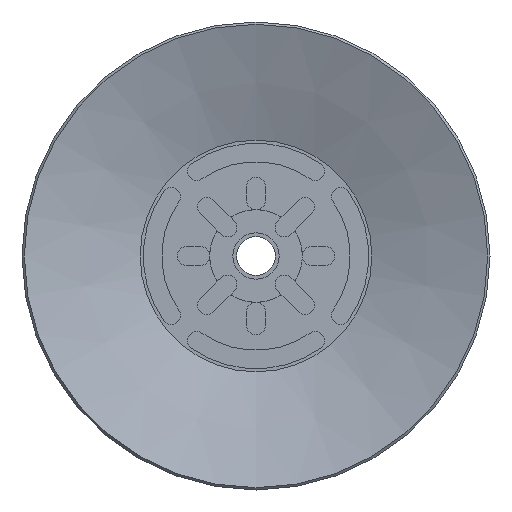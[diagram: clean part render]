
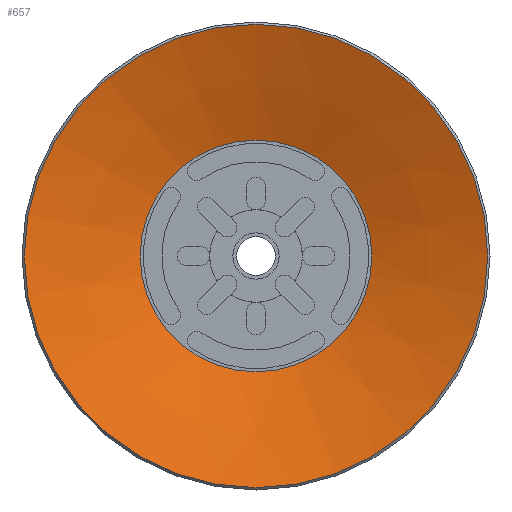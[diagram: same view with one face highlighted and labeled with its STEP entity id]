
A CAD part, front view. The second image highlights one B-rep face of the part: STEP entity #657.
In plain terms, the highlighted conical face has half-angle 70.201 degrees and reference radius 7.5 mm.
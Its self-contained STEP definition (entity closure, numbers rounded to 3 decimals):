
#657=ADVANCED_FACE('',(#1139,#1140),#1141,.F.);
#1139=FACE_BOUND('',#1844,.T.);
#1140=FACE_OUTER_BOUND('',#1845,.T.);
#1141=CONICAL_SURFACE('',#1846,7.5,1.225);
#1844=EDGE_LOOP('',(#3289));
#1845=EDGE_LOOP('',(#3290));
#1846=AXIS2_PLACEMENT_3D('',#3291,#3292,#3293);
#3289=ORIENTED_EDGE('',*,*,#3721,.F.);
#3290=ORIENTED_EDGE('',*,*,#3655,.T.);
#3291=CARTESIAN_POINT('',(0.0,0.0,2.7));
#3292=DIRECTION('',(0.0,0.,-1.0));
#3293=DIRECTION('',(0.0,1.0,0.));
#3655=EDGE_CURVE('',#4315,#4315,#4316,.T.);
#3721=EDGE_CURVE('',#4429,#4429,#4430,.T.);
#4315=VERTEX_POINT('',#5781);
#4316=CIRCLE('',#5782,15.0);
#4429=VERTEX_POINT('',#5920);
#4430=CIRCLE('',#5921,7.5);
#5781=CARTESIAN_POINT('',(0.0,15.0,0.));
#5782=AXIS2_PLACEMENT_3D('',#6531,#6532,#6533);
#5920=CARTESIAN_POINT('',(0.0,7.5,2.7));
#5921=AXIS2_PLACEMENT_3D('',#6679,#6680,#6681);
#6531=CARTESIAN_POINT('',(0.0,0.0,0.0));
#6532=DIRECTION('',(0.0,0.,-1.0));
#6533=DIRECTION('',(0.0,1.0,0.));
#6679=CARTESIAN_POINT('',(0.0,0.0,2.7));
#6680=DIRECTION('',(0.0,0.,-1.0));
#6681=DIRECTION('',(0.0,1.0,0.));
